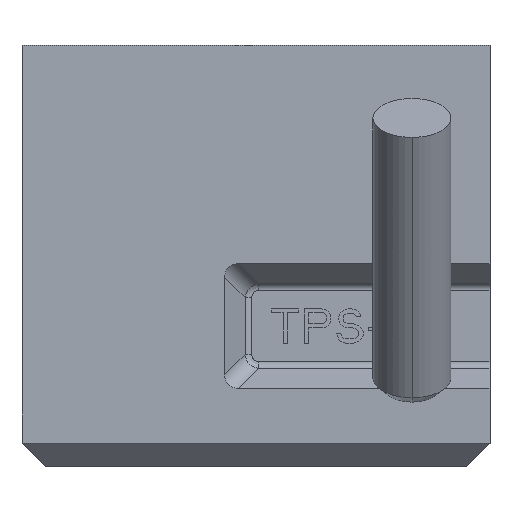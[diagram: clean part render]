
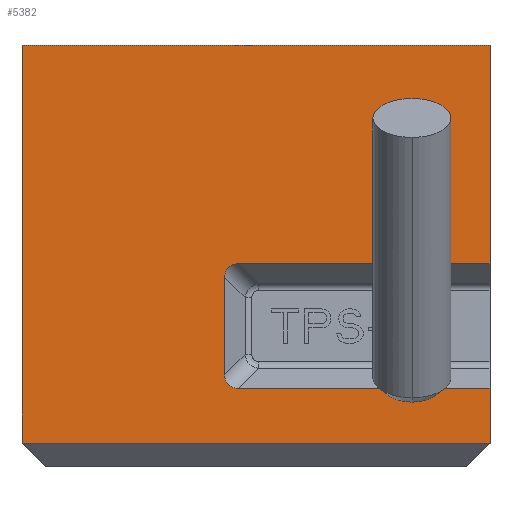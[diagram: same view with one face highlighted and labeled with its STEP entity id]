
A CAD part, top view. The second image highlights one B-rep face of the part: STEP entity #5382.
In plain terms, the highlighted planar face has unit normal (0, 0, 1).
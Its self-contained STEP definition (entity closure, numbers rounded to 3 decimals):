
#313=DIRECTION('',(-1.,0.,0.));
#314=VECTOR('',#313,16.134);
#315=CARTESIAN_POINT('',(15.,5.,6.));
#316=LINE('',#315,#314);
#354=DIRECTION('',(0.,-1.,0.));
#355=VECTOR('',#354,6.268);
#356=CARTESIAN_POINT('',(-2.,12.134,6.));
#357=LINE('',#356,#355);
#358=CARTESIAN_POINT('',(-2.,5.866,6.));
#359=CARTESIAN_POINT('',(-2.,5.794,6.));
#360=CARTESIAN_POINT('',(-1.986,5.664,6.));
#361=CARTESIAN_POINT('',(-1.918,5.443,6.));
#362=CARTESIAN_POINT('',(-1.772,5.228,6.));
#363=CARTESIAN_POINT('',(-1.557,5.082,6.));
#364=CARTESIAN_POINT('',(-1.336,5.014,6.));
#365=CARTESIAN_POINT('',(-1.206,5.,6.));
#366=CARTESIAN_POINT('',(-1.134,5.,6.));
#368=DIRECTION('',(0.,-1.,0.));
#369=VECTOR('',#368,3.5);
#370=CARTESIAN_POINT('',(15.,5.,6.));
#371=LINE('',#370,#369);
#372=DIRECTION('',(-1.,0.,0.));
#373=VECTOR('',#372,30.);
#374=CARTESIAN_POINT('',(15.,1.5,6.));
#375=LINE('',#374,#373);
#376=DIRECTION('',(0.,1.,0.));
#377=VECTOR('',#376,25.5);
#378=CARTESIAN_POINT('',(-15.,1.5,6.));
#379=LINE('',#378,#377);
#380=DIRECTION('',(1.,0.,0.));
#381=VECTOR('',#380,30.);
#382=CARTESIAN_POINT('',(-15.,27.,6.));
#383=LINE('',#382,#381);
#384=DIRECTION('',(0.,-1.,0.));
#385=VECTOR('',#384,14.);
#386=CARTESIAN_POINT('',(15.,27.,6.));
#387=LINE('',#386,#385);
#388=DIRECTION('',(1.,0.,0.));
#389=VECTOR('',#388,16.134);
#390=CARTESIAN_POINT('',(-1.134,13.,6.));
#391=LINE('',#390,#389);
#392=CARTESIAN_POINT('',(-2.,12.134,6.));
#393=CARTESIAN_POINT('',(-2.,12.206,6.));
#394=CARTESIAN_POINT('',(-1.986,12.336,6.));
#395=CARTESIAN_POINT('',(-1.918,12.557,6.));
#396=CARTESIAN_POINT('',(-1.772,12.772,6.));
#397=CARTESIAN_POINT('',(-1.557,12.918,6.));
#398=CARTESIAN_POINT('',(-1.336,12.986,6.));
#399=CARTESIAN_POINT('',(-1.206,13.,6.));
#400=CARTESIAN_POINT('',(-1.134,13.,6.));
#3900=VERTEX_POINT('',#392);
#3901=VERTEX_POINT('',#400);
#3902=CARTESIAN_POINT('',(15.,5.,6.));
#3903=CARTESIAN_POINT('',(-1.134,5.,6.));
#3904=VERTEX_POINT('',#3902);
#3905=VERTEX_POINT('',#3903);
#3906=CARTESIAN_POINT('',(15.,13.,6.));
#3907=VERTEX_POINT('',#3906);
#4221=CARTESIAN_POINT('',(15.,27.,6.));
#4222=VERTEX_POINT('',#4221);
#4223=CARTESIAN_POINT('',(15.,1.5,6.));
#4224=VERTEX_POINT('',#4223);
#4232=VERTEX_POINT('',#358);
#4233=CARTESIAN_POINT('',(-15.,1.5,6.));
#4234=VERTEX_POINT('',#4233);
#4235=CARTESIAN_POINT('',(-15.,27.,6.));
#4236=VERTEX_POINT('',#4235);
#5359=CARTESIAN_POINT('',(0.,0.,6.));
#5360=DIRECTION('',(0.,0.,1.));
#5361=DIRECTION('',(1.,0.,0.));
#5362=AXIS2_PLACEMENT_3D('',#5359,#5360,#5361);
#5363=PLANE('',#5362);
#5365=ORIENTED_EDGE('',*,*,#5364,.T.);
#5366=ORIENTED_EDGE('',*,*,#5352,.T.);
#5367=ORIENTED_EDGE('',*,*,#5253,.F.);
#5368=ORIENTED_EDGE('',*,*,#5240,.T.);
#5370=ORIENTED_EDGE('',*,*,#5369,.T.);
#5372=ORIENTED_EDGE('',*,*,#5371,.T.);
#5374=ORIENTED_EDGE('',*,*,#5373,.T.);
#5375=ORIENTED_EDGE('',*,*,#5227,.T.);
#5377=ORIENTED_EDGE('',*,*,#5376,.F.);
#5379=ORIENTED_EDGE('',*,*,#5378,.F.);
#5380=EDGE_LOOP('',(#5365,#5366,#5367,#5368,#5370,#5372,#5374,#5375,#5377,
#5379));
#5381=FACE_OUTER_BOUND('',#5380,.F.);
#5382=ADVANCED_FACE('',(#5381),#5363,.T.);
#367=B_SPLINE_CURVE_WITH_KNOTS('',3,(#358,#359,#360,#361,#362,#363,#364,#365,
#366),.UNSPECIFIED.,.F.,.F.,(4,1,1,1,1,1,4),(0.,0.125,0.25,0.5,0.75,
0.875,1.),.UNSPECIFIED.);
#401=B_SPLINE_CURVE_WITH_KNOTS('',3,(#392,#393,#394,#395,#396,#397,#398,#399,
#400),.UNSPECIFIED.,.F.,.F.,(4,1,1,1,1,1,4),(0.,0.125,0.25,0.5,0.75,
0.875,1.),.UNSPECIFIED.);
#5227=EDGE_CURVE('',#4222,#3907,#387,.T.);
#5240=EDGE_CURVE('',#3904,#4224,#371,.T.);
#5253=EDGE_CURVE('',#3904,#3905,#316,.T.);
#5352=EDGE_CURVE('',#4232,#3905,#367,.T.);
#5364=EDGE_CURVE('',#3900,#4232,#357,.T.);
#5369=EDGE_CURVE('',#4224,#4234,#375,.T.);
#5371=EDGE_CURVE('',#4234,#4236,#379,.T.);
#5373=EDGE_CURVE('',#4236,#4222,#383,.T.);
#5376=EDGE_CURVE('',#3901,#3907,#391,.T.);
#5378=EDGE_CURVE('',#3900,#3901,#401,.T.);
